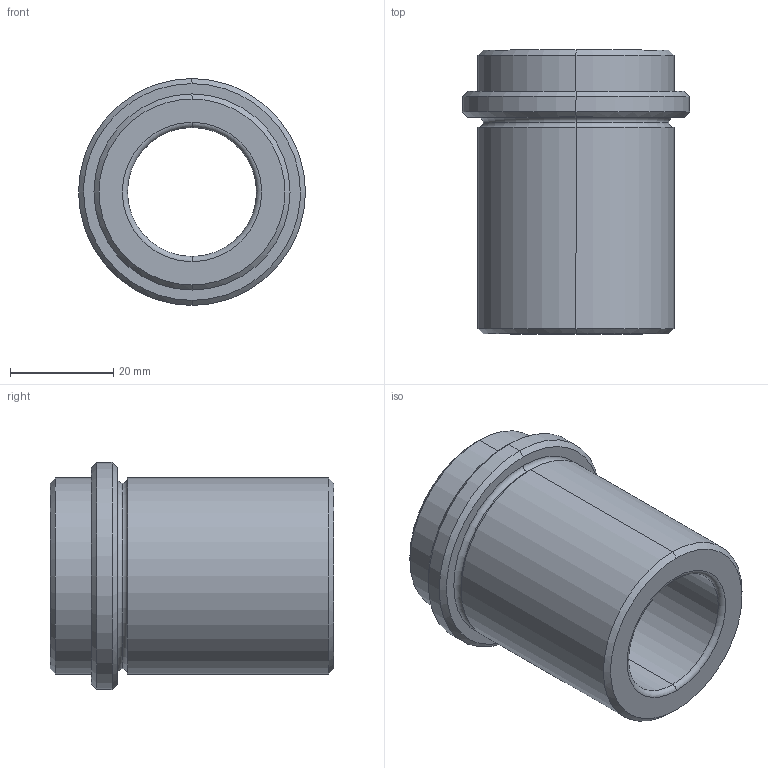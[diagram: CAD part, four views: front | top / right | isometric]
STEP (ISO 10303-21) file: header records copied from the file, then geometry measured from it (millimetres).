
FILE_DESCRIPTION(('CATIA V5 STEP Exchange'),'2;1');
FILE_NAME('C:\Users\Utente\Desktop\IO LAVORO\3D X SITO CF\X SITO\CF 439\CF 439 25x55.stp','2020-12-27T21:01:05+00:00',('none'),('none'),'CATIA Version 5 Release 20 GA (IN-10)','CATIA V5 STEP AP203','none');
FILE_SCHEMA(('CONFIG_CONTROL_DESIGN'));
Length unit declared in the file: millimetre
Products named in the file (1): CF 439 25x55
Bounding box: 44 x 55 x 44 mm (x, y, z)
Volume: 36839.3 mm3; surface area: 12789.4 mm2
Topology: 1 solids, 1 shells, 28 faces, 86 edges, 62 vertices
Faces by surface type: torus 8, cylinder 8, cone 8, plane 4
Entity records: 1104 total; most frequent: CARTESIAN_POINT 289, ORIENTED_EDGE 172, DIRECTION 134, AXIS2_PLACEMENT_3D 91, EDGE_CURVE 86, CIRCLE 62, VERTEX_POINT 62, EDGE_LOOP 32
